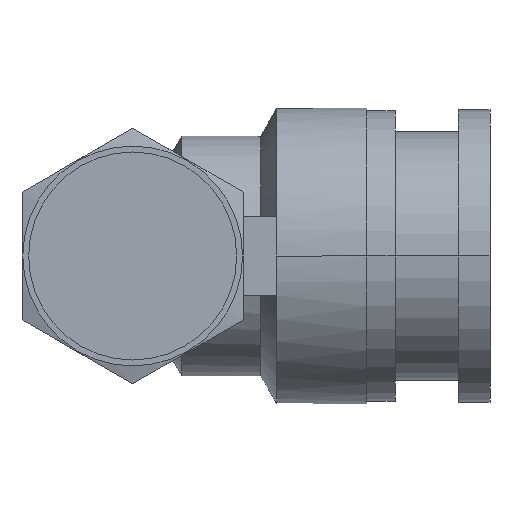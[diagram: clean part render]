
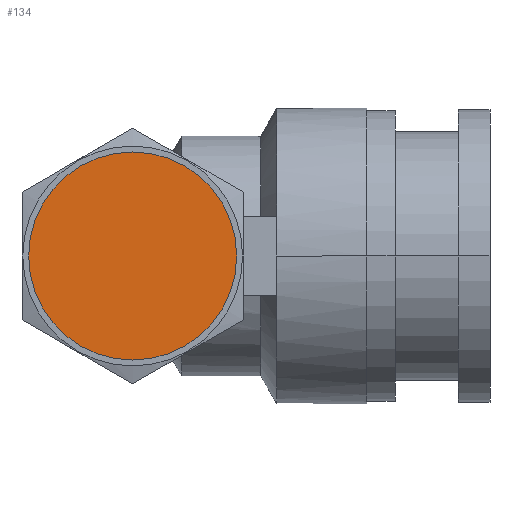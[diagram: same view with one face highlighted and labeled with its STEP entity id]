
A CAD part, front view. The second image highlights one B-rep face of the part: STEP entity #134.
In plain terms, the highlighted planar face has unit normal (0, -1, 0).
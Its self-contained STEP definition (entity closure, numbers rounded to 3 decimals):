
#134 = ADVANCED_FACE( '', ( #261 ), #262, .T. );
#261 = FACE_OUTER_BOUND( '', #388, .T. );
#262 = PLANE( '', #389 );
#388 = EDGE_LOOP( '', ( #853, #854 ) );
#389 = AXIS2_PLACEMENT_3D( '', #855, #856, #857 );
#853 = ORIENTED_EDGE( '', *, *, #861, .T. );
#854 = ORIENTED_EDGE( '', *, *, #1001, .T. );
#855 = CARTESIAN_POINT( '', ( -3.289, -4.75, 0. ) );
#856 = DIRECTION( '', ( 0., -1., 0. ) );
#857 = DIRECTION( '', ( -1., 0., 0. ) );
#861 = EDGE_CURVE( '', #1003, #1007, #1009, .T. );
#1001 = EDGE_CURVE( '', #1007, #1003, #1238, .T. );
#1003 = VERTEX_POINT( '', #1240 );
#1007 = VERTEX_POINT( '', #1245 );
#1009 = CIRCLE( '', #1248, 6.579 );
#1238 = CIRCLE( '', #1817, 6.579 );
#1240 = CARTESIAN_POINT( '', ( -6.579, -4.75, 0. ) );
#1245 = CARTESIAN_POINT( '', ( 6.579, -4.75, 0. ) );
#1248 = AXIS2_PLACEMENT_3D( '', #1823, #1824, #1825 );
#1817 = AXIS2_PLACEMENT_3D( '', #2041, #2042, #2043 );
#1823 = CARTESIAN_POINT( '', ( 0., -4.75, 0. ) );
#1824 = DIRECTION( '', ( 0., -1., 0. ) );
#1825 = DIRECTION( '', ( -1., 0., 0. ) );
#2041 = CARTESIAN_POINT( '', ( 0., -4.75, 0. ) );
#2042 = DIRECTION( '', ( 0., -1., 0. ) );
#2043 = DIRECTION( '', ( -1., 0., 0. ) );
